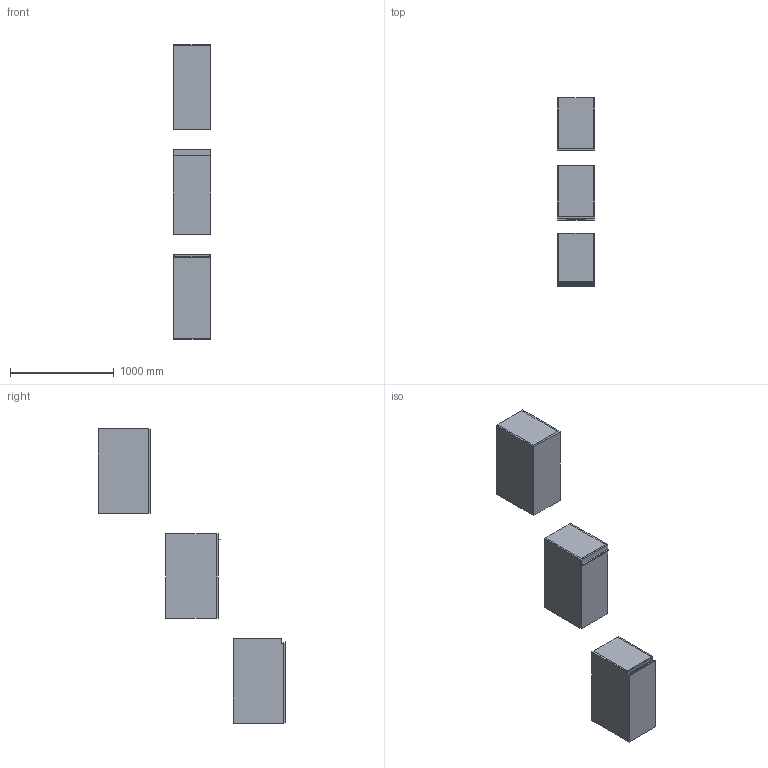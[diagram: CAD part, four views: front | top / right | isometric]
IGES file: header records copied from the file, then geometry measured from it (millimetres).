
Start section: Data from Parasolid IGES Translator 19.0.9, Copyright(c) 2006 Siemens PL M Software. All Rights Reserved.
Global section: file name: noorth-SI-H 81,2 D 51 W 36_9734.igs; native system: By Siemens PLM Incorporated; preprocessor: XPlus GENERIC/IGES 19.0.9; author: Noname; organization: Noname; date: 20200601.142622; units: metre
Bounding box: 360.01 x 1807.1 x 2832.01 mm (x, y, z)
Volume: 71722942.1 mm3; surface area: 10514343.2 mm2
Topology: 20 solids, 20 shells, 178 faces, 382 edges, 234 vertices
Faces by surface type: plane 134, extrusion 16, bspline 16, cylinder 12
